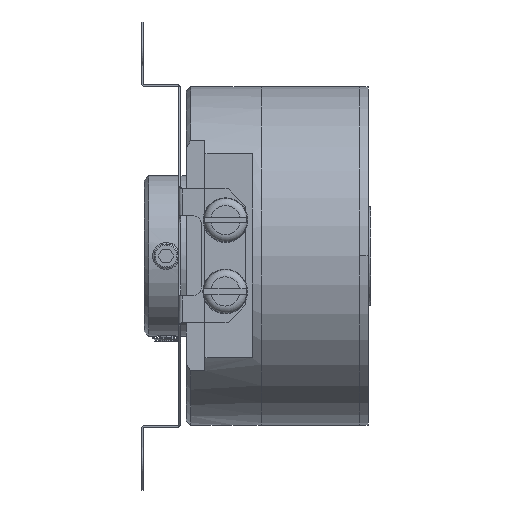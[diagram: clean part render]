
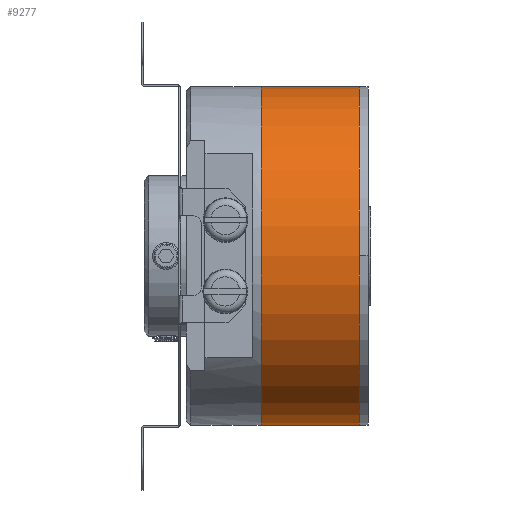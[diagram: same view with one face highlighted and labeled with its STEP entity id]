
A CAD part, top view. The second image highlights one B-rep face of the part: STEP entity #9277.
In plain terms, the highlighted cylindrical face has radius 19 mm (diameter 38 mm), a partial arc.
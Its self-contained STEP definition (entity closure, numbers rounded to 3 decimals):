
#5 = CARTESIAN_POINT ( 'NONE',  ( 24.033, 32.754, 17.632 ) ) ;
#163 = DIRECTION ( 'NONE',  ( 1., 0., 0. ) ) ;
#1670 = DIRECTION ( 'NONE',  ( 1., 0., 0. ) ) ;
#3246 = CYLINDRICAL_SURFACE ( 'NONE', #11943, 19. ) ;
#4034 = CARTESIAN_POINT ( 'NONE',  ( 24.033, 13.754, 17.632 ) ) ;
#5202 = DIRECTION ( 'NONE',  ( 0., 1., 0. ) ) ;
#5790 = VERTEX_POINT ( 'NONE', #7703 ) ;
#5941 = VERTEX_POINT ( 'NONE', #5 ) ;
#7064 = EDGE_CURVE ( 'NONE', #8085, #5790, #7273, .T. ) ;
#7082 = EDGE_CURVE ( 'NONE', #13941, #8085, #7268, .T. ) ;
#7084 = EDGE_CURVE ( 'NONE', #5941, #5790, #7255, .T. ) ;
#7088 = EDGE_CURVE ( 'NONE', #13941, #5941, #7252, .T. ) ;
#7206 = VECTOR ( 'NONE', #7584, 1000. ) ;
#7252 = LINE ( 'NONE', #10961, #7206 ) ;
#7255 = CIRCLE ( 'NONE', #13193, 19. ) ;
#7268 = CIRCLE ( 'NONE', #13194, 19. ) ;
#7273 = LINE ( 'NONE', #10898, #7392 ) ;
#7392 = VECTOR ( 'NONE', #13038, 1000. ) ;
#7584 = DIRECTION ( 'NONE',  ( 1., 0., 0. ) ) ;
#7703 = CARTESIAN_POINT ( 'NONE',  ( 24.033, -5.246, 17.632 ) ) ;
#8085 = VERTEX_POINT ( 'NONE', #10141 ) ;
#8654 = CARTESIAN_POINT ( 'NONE',  ( 13.033, 13.754, 17.632 ) ) ;
#8979 = EDGE_LOOP ( 'NONE', ( #13020, #13070, #13095, #13189 ) ) ;
#9261 = CARTESIAN_POINT ( 'NONE',  ( 13.033, 32.754, 17.632 ) ) ;
#9277 = ADVANCED_FACE ( 'NONE', ( #10991 ), #3246, .T. ) ;
#9768 = DIRECTION ( 'NONE',  ( 0., 1., 0. ) ) ;
#10141 = CARTESIAN_POINT ( 'NONE',  ( 13.033, -5.246, 17.632 ) ) ;
#10898 = CARTESIAN_POINT ( 'NONE',  ( 24.033, -5.246, 17.632 ) ) ;
#10961 = CARTESIAN_POINT ( 'NONE',  ( 24.033, 32.754, 17.632 ) ) ;
#10991 = FACE_OUTER_BOUND ( 'NONE', #8979, .T. ) ;
#11664 = DIRECTION ( 'NONE',  ( 0., 1., 0. ) ) ;
#11943 = AXIS2_PLACEMENT_3D ( 'NONE', #13653, #163, #11664 ) ;
#12094 = DIRECTION ( 'NONE',  ( 1., 0., 0. ) ) ;
#13020 = ORIENTED_EDGE ( 'NONE', *, *, #7082, .T. ) ;
#13038 = DIRECTION ( 'NONE',  ( 1., 0., 0. ) ) ;
#13070 = ORIENTED_EDGE ( 'NONE', *, *, #7064, .T. ) ;
#13095 = ORIENTED_EDGE ( 'NONE', *, *, #7084, .F. ) ;
#13189 = ORIENTED_EDGE ( 'NONE', *, *, #7088, .F. ) ;
#13193 = AXIS2_PLACEMENT_3D ( 'NONE', #4034, #12094, #5202 ) ;
#13194 = AXIS2_PLACEMENT_3D ( 'NONE', #8654, #1670, #9768 ) ;
#13653 = CARTESIAN_POINT ( 'NONE',  ( 24.033, 13.754, 17.632 ) ) ;
#13941 = VERTEX_POINT ( 'NONE', #9261 ) ;
